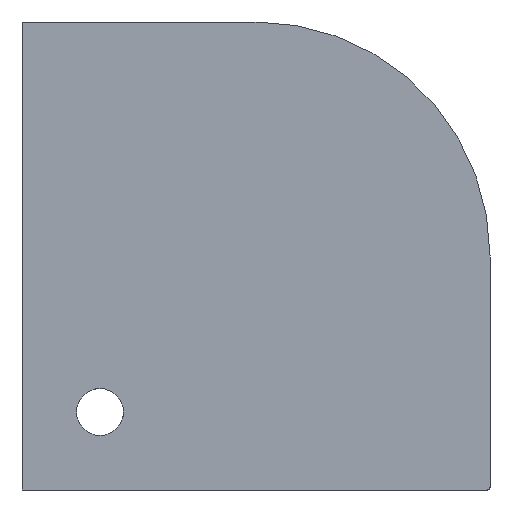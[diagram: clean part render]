
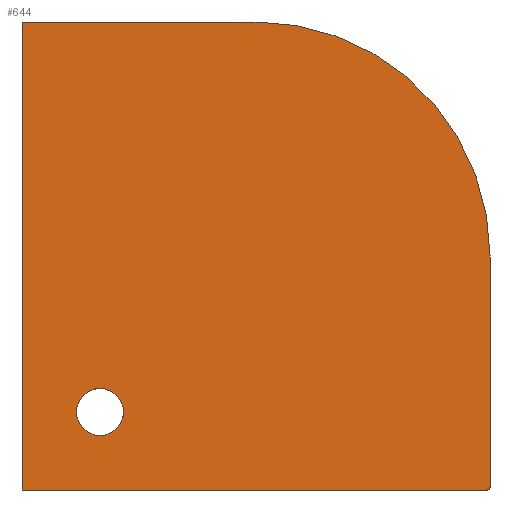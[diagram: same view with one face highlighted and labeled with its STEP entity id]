
A CAD part, front view. The second image highlights one B-rep face of the part: STEP entity #644.
In plain terms, the highlighted planar face has unit normal (0, -1, 0).
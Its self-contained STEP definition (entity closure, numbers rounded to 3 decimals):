
#58=FACE_BOUND('',#107,.T.);
#61=FACE_OUTER_BOUND('',#106,.T.);
#106=EDGE_LOOP('',(#439,#440,#441,#442,#443,#444,#445));
#107=EDGE_LOOP('',(#446));
#154=LINE('',#1017,#199);
#155=LINE('',#1021,#200);
#156=LINE('',#1025,#201);
#157=LINE('',#1026,#202);
#199=VECTOR('',#796,10.);
#200=VECTOR('',#799,10.);
#201=VECTOR('',#802,10.);
#202=VECTOR('',#803,10.);
#244=CIRCLE('',#704,5.);
#245=CIRCLE('',#705,450.);
#246=CIRCLE('',#706,5.);
#247=CIRCLE('',#707,45.);
#287=VERTEX_POINT('',#1013);
#288=VERTEX_POINT('',#1014);
#289=VERTEX_POINT('',#1016);
#290=VERTEX_POINT('',#1018);
#291=VERTEX_POINT('',#1020);
#292=VERTEX_POINT('',#1022);
#293=VERTEX_POINT('',#1024);
#294=VERTEX_POINT('',#1027);
#342=EDGE_CURVE('',#287,#288,#244,.T.);
#343=EDGE_CURVE('',#289,#287,#154,.T.);
#344=EDGE_CURVE('',#290,#289,#245,.T.);
#345=EDGE_CURVE('',#291,#290,#155,.T.);
#346=EDGE_CURVE('',#292,#291,#246,.T.);
#347=EDGE_CURVE('',#293,#292,#156,.T.);
#348=EDGE_CURVE('',#288,#293,#157,.T.);
#349=EDGE_CURVE('',#294,#294,#247,.T.);
#439=ORIENTED_EDGE('',*,*,#342,.F.);
#440=ORIENTED_EDGE('',*,*,#343,.F.);
#441=ORIENTED_EDGE('',*,*,#344,.F.);
#442=ORIENTED_EDGE('',*,*,#345,.F.);
#443=ORIENTED_EDGE('',*,*,#346,.F.);
#444=ORIENTED_EDGE('',*,*,#347,.F.);
#445=ORIENTED_EDGE('',*,*,#348,.F.);
#446=ORIENTED_EDGE('',*,*,#349,.F.);
#633=PLANE('',#703);
#644=ADVANCED_FACE('',(#61,#58),#633,.F.);
#703=AXIS2_PLACEMENT_3D('',#1012,#792,#793);
#704=AXIS2_PLACEMENT_3D('',#1015,#794,#795);
#705=AXIS2_PLACEMENT_3D('',#1019,#797,#798);
#706=AXIS2_PLACEMENT_3D('',#1023,#800,#801);
#707=AXIS2_PLACEMENT_3D('',#1028,#804,#805);
#792=DIRECTION('center_axis',(0.,1.,0.));
#793=DIRECTION('ref_axis',(1.,0.,0.));
#794=DIRECTION('center_axis',(0.,1.,0.));
#795=DIRECTION('ref_axis',(0.707,0.,-0.707));
#796=DIRECTION('',(0.,0.,-1.));
#797=DIRECTION('center_axis',(0.,1.,0.));
#798=DIRECTION('ref_axis',(0.707,0.,0.707));
#799=DIRECTION('',(1.,0.,0.));
#800=DIRECTION('center_axis',(0.,1.,0.));
#801=DIRECTION('ref_axis',(-0.707,0.,0.707));
#802=DIRECTION('',(0.,0.,1.));
#803=DIRECTION('',(-1.,0.,0.));
#804=DIRECTION('center_axis',(0.,-1.,0.));
#805=DIRECTION('ref_axis',(-1.,0.,0.));
#1012=CARTESIAN_POINT('Origin',(0.,75.,0.));
#1013=CARTESIAN_POINT('',(450.,75.,-445.));
#1014=CARTESIAN_POINT('',(445.,75.,-450.));
#1015=CARTESIAN_POINT('Origin',(445.,75.,-445.));
#1016=CARTESIAN_POINT('',(450.,75.,0.));
#1017=CARTESIAN_POINT('',(450.,75.,225.));
#1018=CARTESIAN_POINT('',(0.,75.,450.));
#1019=CARTESIAN_POINT('Origin',(0.,75.,0.));
#1020=CARTESIAN_POINT('',(-445.,75.,450.));
#1021=CARTESIAN_POINT('',(-225.,75.,450.));
#1022=CARTESIAN_POINT('',(-450.,75.,445.));
#1023=CARTESIAN_POINT('Origin',(-445.,75.,445.));
#1024=CARTESIAN_POINT('',(-450.,75.,-450.));
#1025=CARTESIAN_POINT('',(-450.,75.,-225.));
#1026=CARTESIAN_POINT('',(225.,75.,-450.));
#1027=CARTESIAN_POINT('',(-255.,75.,-300.));
#1028=CARTESIAN_POINT('Origin',(-300.,75.,-300.));
